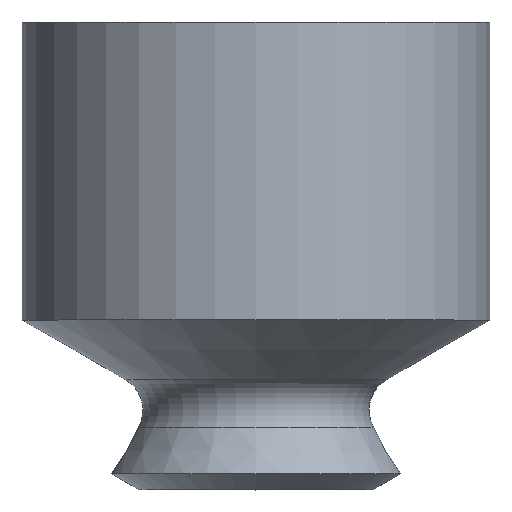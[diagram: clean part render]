
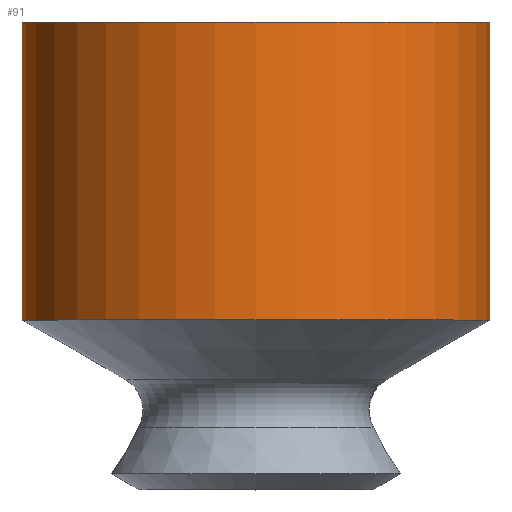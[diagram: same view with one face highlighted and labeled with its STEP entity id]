
A CAD part, top view. The second image highlights one B-rep face of the part: STEP entity #91.
In plain terms, the highlighted cylindrical face has radius 2 mm (diameter 4 mm), a full revolution.
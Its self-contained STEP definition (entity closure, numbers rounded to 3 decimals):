
#91=ADVANCED_FACE('',(#142,#143),#144,.T.);
#142=FACE_OUTER_BOUND('',#196,.T.);
#143=FACE_OUTER_BOUND('',#197,.T.);
#144=CYLINDRICAL_SURFACE('',#198,2.0);
#196=EDGE_LOOP('',(#316));
#197=EDGE_LOOP('',(#317));
#198=AXIS2_PLACEMENT_3D('',#318,#319,#320);
#316=ORIENTED_EDGE('',*,*,#331,.T.);
#317=ORIENTED_EDGE('',*,*,#335,.F.);
#318=CARTESIAN_POINT('',(0.0,0.0,0.0));
#319=DIRECTION('',(0.0,-1.0,0.));
#320=DIRECTION('',(0.0,0.,-1.0));
#331=EDGE_CURVE('',#357,#357,#358,.T.);
#335=EDGE_CURVE('',#365,#365,#366,.T.);
#357=VERTEX_POINT('',#393);
#358=CIRCLE('',#394,2.0);
#365=VERTEX_POINT('',#401);
#366=CIRCLE('',#402,2.0);
#393=CARTESIAN_POINT('',(2.0,10.599,0.));
#394=AXIS2_PLACEMENT_3D('',#437,#438,#439);
#401=CARTESIAN_POINT('',(2.0,8.05,0.));
#402=AXIS2_PLACEMENT_3D('',#449,#450,#451);
#437=CARTESIAN_POINT('',(0.0,10.599,0.));
#438=DIRECTION('',(0.0,-1.0,0.));
#439=DIRECTION('',(0.0,0.,-1.0));
#449=CARTESIAN_POINT('',(0.0,8.05,0.));
#450=DIRECTION('',(0.0,-1.0,0.));
#451=DIRECTION('',(0.0,0.,-1.0));
